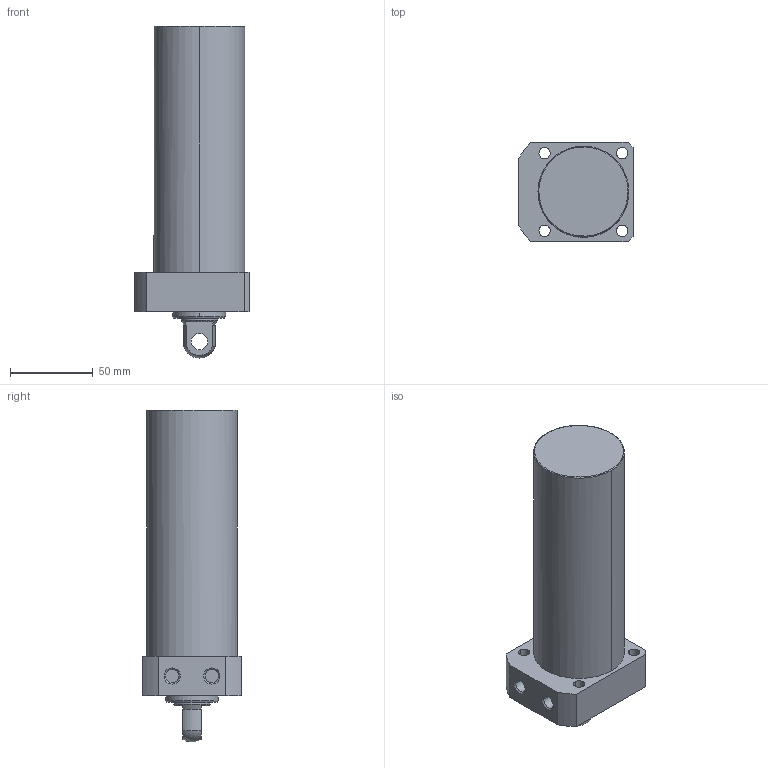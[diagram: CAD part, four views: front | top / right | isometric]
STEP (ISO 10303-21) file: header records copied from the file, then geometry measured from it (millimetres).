
FILE_DESCRIPTION((' '),'2;1');
FILE_NAME( 'TLLR-055CP-120.STEP.stp', '2025-10-24T16:34:52', (' '), ('--- Datakit www.datakit.com---'), ' Datakit CrossCadWare V2024.1 Dec 21 2023', 'Mastercam 2025', ' ');
FILE_SCHEMA(('AUTOMOTIVE_DESIGN { 1 0 10303 214 1 1 1 1 }'));
Length unit declared in the file: millimetre
Products named in the file (1): TLLR-055CP-120
Bounding box: 69 x 60 x 200.93 mm (x, y, z)
Volume: 453522.5 mm3; surface area: 43963.4 mm2
Topology: 1 solids, 1 shells, 57 faces, 164 edges, 116 vertices
Faces by surface type: cylinder 28, plane 18, cone 8, torus 2, sphere 1
Entity records: 2006 total; most frequent: DIRECTION 378, CARTESIAN_POINT 350, ORIENTED_EDGE 328, EDGE_CURVE 164, AXIS2_PLACEMENT_3D 160, VERTEX_POINT 116, CIRCLE 102, EDGE_LOOP 74
